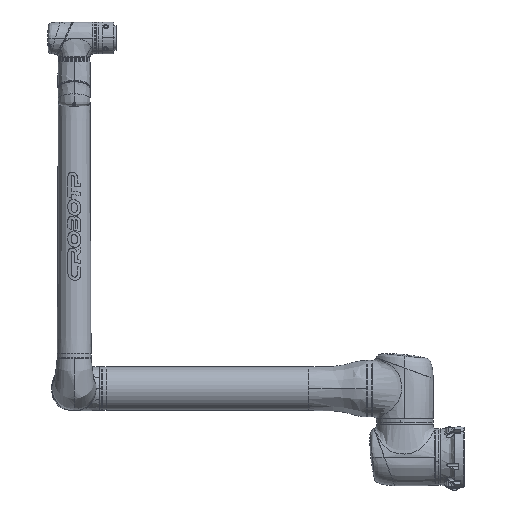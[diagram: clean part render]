
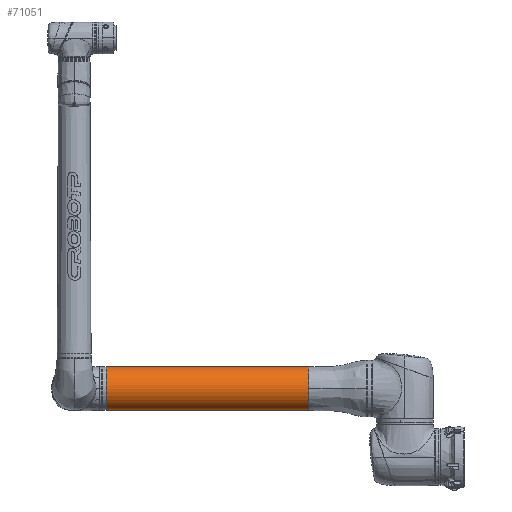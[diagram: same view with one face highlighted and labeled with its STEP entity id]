
A CAD part, left-side view. The second image highlights one B-rep face of the part: STEP entity #71051.
In plain terms, the highlighted cylindrical face has radius 58 mm (diameter 116 mm), a partial arc.
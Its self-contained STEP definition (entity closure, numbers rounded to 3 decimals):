
#4204 = CARTESIAN_POINT ( 'NONE',  ( 0., 705.5, -58. ) ) ;
#9875 = EDGE_CURVE ( 'NONE', #66796, #64899, #25645, .T. ) ;
#18880 = AXIS2_PLACEMENT_3D ( 'NONE', #37016, #51360, #53563 ) ;
#19284 = ORIENTED_EDGE ( 'NONE', *, *, #33483, .F. ) ;
#20878 = ORIENTED_EDGE ( 'NONE', *, *, #9875, .F. ) ;
#20943 = CIRCLE ( 'NONE', #88318, 58. ) ;
#22932 = CARTESIAN_POINT ( 'NONE',  ( 0., 705.5, 0. ) ) ;
#23466 = VERTEX_POINT ( 'NONE', #83124 ) ;
#23953 = FACE_OUTER_BOUND ( 'NONE', #57950, .T. ) ;
#25645 = LINE ( 'NONE', #61553, #27961 ) ;
#26068 = DIRECTION ( 'NONE',  ( 0., -1., 0. ) ) ;
#27961 = VECTOR ( 'NONE', #33730, 1000. ) ;
#30376 = AXIS2_PLACEMENT_3D ( 'NONE', #60762, #67120, #33833 ) ;
#33483 = EDGE_CURVE ( 'NONE', #48264, #88313, #20943, .T. ) ;
#33730 = DIRECTION ( 'NONE',  ( 0., -1., 0. ) ) ;
#33833 = DIRECTION ( 'NONE',  ( 0., 0., -1. ) ) ;
#35125 = LINE ( 'NONE', #70165, #50965 ) ;
#36849 = ORIENTED_EDGE ( 'NONE', *, *, #41888, .F. ) ;
#37016 = CARTESIAN_POINT ( 'NONE',  ( 0., 0., 0. ) ) ;
#37687 = CARTESIAN_POINT ( 'NONE',  ( 0., 168., 58. ) ) ;
#39047 = AXIS2_PLACEMENT_3D ( 'NONE', #22932, #71470, #64748 ) ;
#41888 = EDGE_CURVE ( 'NONE', #64899, #48264, #77803, .T. ) ;
#42391 = CARTESIAN_POINT ( 'NONE',  ( 0., 168., -58. ) ) ;
#48264 = VERTEX_POINT ( 'NONE', #78282 ) ;
#50464 = CYLINDRICAL_SURFACE ( 'NONE', #18880, 58. ) ;
#50965 = VECTOR ( 'NONE', #69714, 1000. ) ;
#51360 = DIRECTION ( 'NONE',  ( 0., -1., 0. ) ) ;
#53400 = CIRCLE ( 'NONE', #39047, 58. ) ;
#53563 = DIRECTION ( 'NONE',  ( 0., 0., -1. ) ) ;
#57950 = EDGE_LOOP ( 'NONE', ( #79943, #78768, #19284, #36849, #20878 ) ) ;
#59750 = CARTESIAN_POINT ( 'NONE',  ( 0., 168., 0. ) ) ;
#60762 = CARTESIAN_POINT ( 'NONE',  ( 0., 168., 0. ) ) ;
#61553 = CARTESIAN_POINT ( 'NONE',  ( 0., 0., -58. ) ) ;
#64748 = DIRECTION ( 'NONE',  ( 0., 0., 1. ) ) ;
#64899 = VERTEX_POINT ( 'NONE', #42391 ) ;
#66120 = DIRECTION ( 'NONE',  ( 0., 0., -1. ) ) ;
#66796 = VERTEX_POINT ( 'NONE', #4204 ) ;
#67120 = DIRECTION ( 'NONE',  ( 0., -1., 0. ) ) ;
#69714 = DIRECTION ( 'NONE',  ( 0., -1., 0. ) ) ;
#70165 = CARTESIAN_POINT ( 'NONE',  ( 0., 0., 58. ) ) ;
#71051 = ADVANCED_FACE ( 'NONE', ( #23953 ), #50464, .T. ) ;
#71470 = DIRECTION ( 'NONE',  ( 0., -1., 0. ) ) ;
#74932 = EDGE_CURVE ( 'NONE', #23466, #88313, #35125, .T. ) ;
#77803 = CIRCLE ( 'NONE', #30376, 58. ) ;
#78282 = CARTESIAN_POINT ( 'NONE',  ( 58., 168., 0. ) ) ;
#78768 = ORIENTED_EDGE ( 'NONE', *, *, #74932, .T. ) ;
#79943 = ORIENTED_EDGE ( 'NONE', *, *, #84206, .T. ) ;
#83124 = CARTESIAN_POINT ( 'NONE',  ( 0., 705.5, 58. ) ) ;
#84206 = EDGE_CURVE ( 'NONE', #66796, #23466, #53400, .T. ) ;
#88313 = VERTEX_POINT ( 'NONE', #37687 ) ;
#88318 = AXIS2_PLACEMENT_3D ( 'NONE', #59750, #26068, #66120 ) ;
